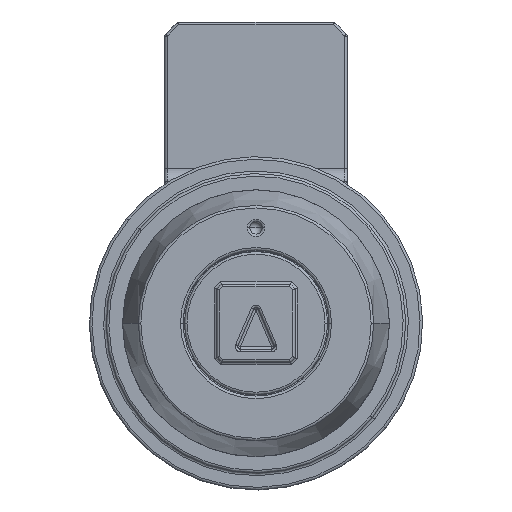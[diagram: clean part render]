
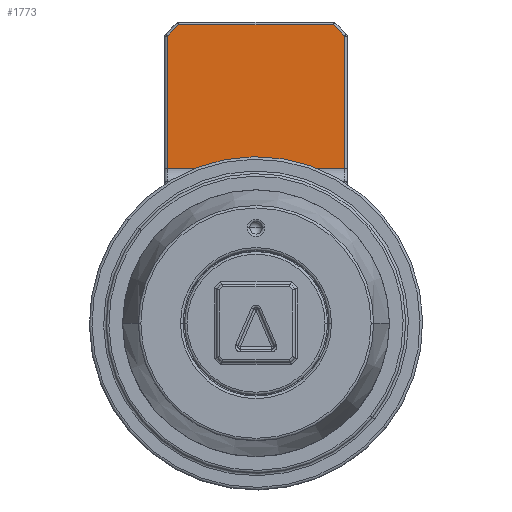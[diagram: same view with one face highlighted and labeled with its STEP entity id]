
A CAD part, top view. The second image highlights one B-rep face of the part: STEP entity #1773.
In plain terms, the highlighted planar face has unit normal (0, 0, 1) as drawn and (0, -1, 0) by its records, which use the part's own axes.
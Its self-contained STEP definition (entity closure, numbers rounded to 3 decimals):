
#1700 = EDGE_LOOP ( 'NONE', ( #1726, #1777, #1709, #1752, #1771, #1755 ) ) ;
#1704 = VERTEX_POINT ( 'NONE', #19724 ) ;
#1706 = VERTEX_POINT ( 'NONE', #19719 ) ;
#1709 = ORIENTED_EDGE ( 'NONE', *, *, #1778, .T. ) ;
#1710 = VERTEX_POINT ( 'NONE', #19707 ) ;
#1726 = ORIENTED_EDGE ( 'NONE', *, *, #1776, .T. ) ;
#1729 = EDGE_CURVE ( 'NONE', #1774, #1779, #19772, .T. ) ;
#1752 = ORIENTED_EDGE ( 'NONE', *, *, #1729, .T. ) ;
#1753 = EDGE_CURVE ( 'NONE', #1779, #1704, #19792, .T. ) ;
#1755 = ORIENTED_EDGE ( 'NONE', *, *, #1756, .T. ) ;
#1756 = EDGE_CURVE ( 'NONE', #1704, #1710, #19786, .T. ) ;
#1771 = ORIENTED_EDGE ( 'NONE', *, *, #1753, .T. ) ;
#1772 = VERTEX_POINT ( 'NONE', #19836 ) ;
#1773 = ADVANCED_FACE ( 'NONE', ( #19824 ), #19840, .F. ) ;
#1774 = VERTEX_POINT ( 'NONE', #19790 ) ;
#1775 = EDGE_CURVE ( 'NONE', #1706, #1772, #19821, .T. ) ;
#1776 = EDGE_CURVE ( 'NONE', #1710, #1706, #19833, .T. ) ;
#1777 = ORIENTED_EDGE ( 'NONE', *, *, #1775, .T. ) ;
#1778 = EDGE_CURVE ( 'NONE', #1772, #1774, #19872, .T. ) ;
#1779 = VERTEX_POINT ( 'NONE', #19820 ) ;
#19707 = CARTESIAN_POINT ( 'NONE',  ( 18.235, 8., 13.8 ) ) ;
#19719 = CARTESIAN_POINT ( 'NONE',  ( 18.235, 8., 0.2 ) ) ;
#19724 = CARTESIAN_POINT ( 'NONE',  ( 28.417, 8., 13.8 ) ) ;
#19769 = DIRECTION ( 'NONE',  ( 0., 0., 1. ) ) ;
#19770 = VECTOR ( 'NONE', #19769, 1000. ) ;
#19771 = CARTESIAN_POINT ( 'NONE',  ( 29.3, 8., 13. ) ) ;
#19772 = LINE ( 'NONE', #19771, #19770 ) ;
#19786 = LINE ( 'NONE', #19846, #19845 ) ;
#19788 = DIRECTION ( 'NONE',  ( -0.707, 0., 0.707 ) ) ;
#19789 = VECTOR ( 'NONE', #19788, 1000. ) ;
#19790 = CARTESIAN_POINT ( 'NONE',  ( 29.3, 8., 1.083 ) ) ;
#19791 = CARTESIAN_POINT ( 'NONE',  ( 28.359, 8., 13.859 ) ) ;
#19792 = LINE ( 'NONE', #19791, #19789 ) ;
#19818 = DIRECTION ( 'NONE',  ( 0., 0., 1. ) ) ;
#19819 = DIRECTION ( 'NONE',  ( 0., 1., 0. ) ) ;
#19820 = CARTESIAN_POINT ( 'NONE',  ( 29.3, 8., 12.917 ) ) ;
#19821 = LINE ( 'NONE', #19880, #19879 ) ;
#19823 = AXIS2_PLACEMENT_3D ( 'NONE', #19828, #19819, #19818 ) ;
#19824 = FACE_OUTER_BOUND ( 'NONE', #1700, .T. ) ;
#19828 = CARTESIAN_POINT ( 'NONE',  ( 17.5, 8., 14. ) ) ;
#19833 = LINE ( 'NONE', #19876, #19875 ) ;
#19836 = CARTESIAN_POINT ( 'NONE',  ( 28.417, 8., 0.2 ) ) ;
#19840 = PLANE ( 'NONE',  #19823 ) ;
#19844 = DIRECTION ( 'NONE',  ( -1., 0., 0. ) ) ;
#19845 = VECTOR ( 'NONE', #19844, 1000. ) ;
#19846 = CARTESIAN_POINT ( 'NONE',  ( 17.5, 8., 13.8 ) ) ;
#19869 = DIRECTION ( 'NONE',  ( 0.707, 0., 0.707 ) ) ;
#19870 = VECTOR ( 'NONE', #19869, 1000. ) ;
#19871 = CARTESIAN_POINT ( 'NONE',  ( 29.359, 8., 1.141 ) ) ;
#19872 = LINE ( 'NONE', #19871, #19870 ) ;
#19874 = DIRECTION ( 'NONE',  ( 0., 0., -1. ) ) ;
#19875 = VECTOR ( 'NONE', #19874, 1000. ) ;
#19876 = CARTESIAN_POINT ( 'NONE',  ( 18.235, 8., 0. ) ) ;
#19878 = DIRECTION ( 'NONE',  ( 1., 0., 0. ) ) ;
#19879 = VECTOR ( 'NONE', #19878, 1000. ) ;
#19880 = CARTESIAN_POINT ( 'NONE',  ( 28.5, 8., 0.2 ) ) ;
